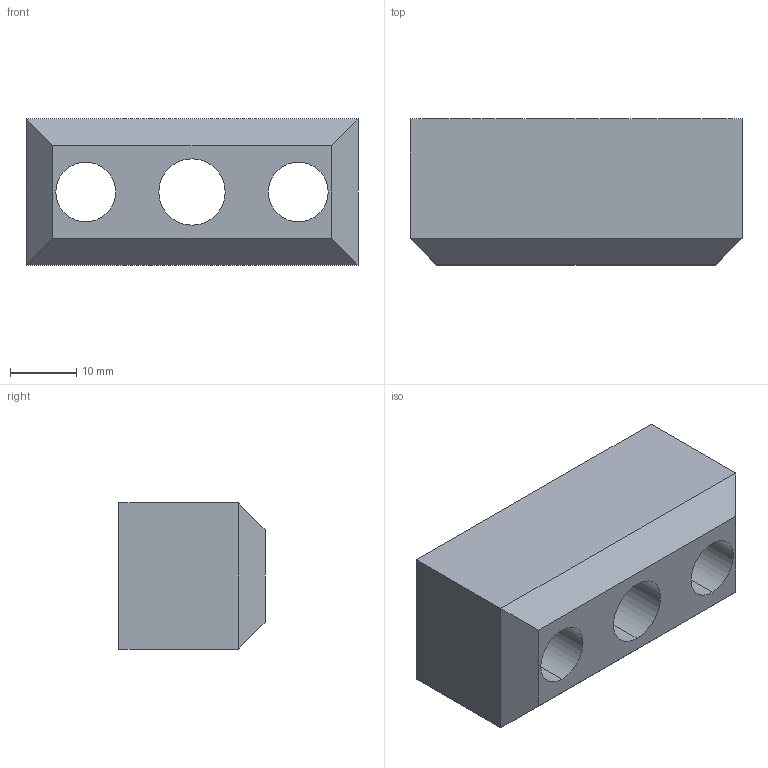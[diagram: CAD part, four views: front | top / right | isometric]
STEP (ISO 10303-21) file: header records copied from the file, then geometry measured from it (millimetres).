
FILE_DESCRIPTION(('CATIA V5 STEP Exchange'),'2;1');
FILE_NAME('C:\Users\Raffaele\Desktop\3D X SITO CF\761\GSB_OILLESS_M31705022050\STEP-2.03\761-022050.stp','2019-07-05T06:20:05+00:00',('none'),('none'),'CATIA Version 5 Release 20 GA (IN-10)','CATIA V5 STEP AP203','none');
FILE_SCHEMA(('CONFIG_CONTROL_DESIGN'));
Length unit declared in the file: millimetre
Products named in the file (1): 761-022050
Bounding box: 50 x 22 x 22 mm (x, y, z)
Volume: 14969.9 mm3; surface area: 7124.7 mm2
Topology: 1 solids, 1 shells, 25 faces, 80 edges, 60 vertices
Faces by surface type: plane 13, cylinder 12
Entity records: 1074 total; most frequent: CARTESIAN_POINT 316, ORIENTED_EDGE 160, DIRECTION 118, EDGE_CURVE 80, AXIS2_PLACEMENT_3D 62, VERTEX_POINT 60, CIRCLE 36, EDGE_LOOP 34
